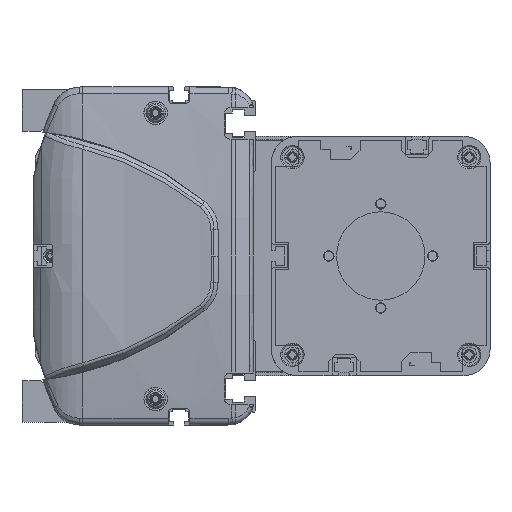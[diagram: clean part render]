
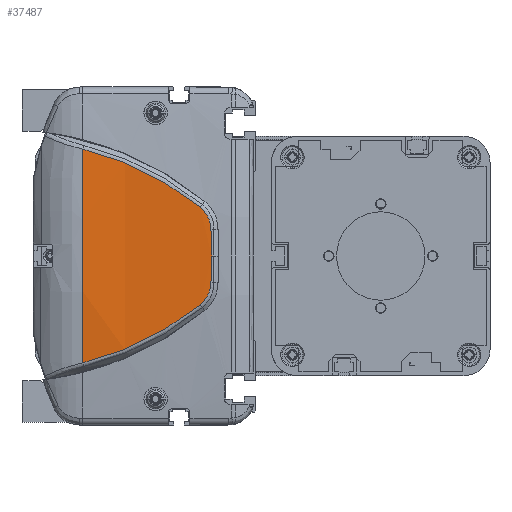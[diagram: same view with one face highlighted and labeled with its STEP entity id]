
A CAD part, left-side view. The second image highlights one B-rep face of the part: STEP entity #37487.
In plain terms, the highlighted cylindrical face has radius 500 mm (diameter 1000 mm), a partial arc.
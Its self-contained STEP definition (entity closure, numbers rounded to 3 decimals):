
#11691=CARTESIAN_POINT('',(-713.648,21.913,
-18.759));
#11692=CARTESIAN_POINT('',(-713.449,28.504,
-24.058));
#11693=CARTESIAN_POINT('',(-712.934,42.795,
-33.27));
#11694=CARTESIAN_POINT('',(-712.471,58.756,
-39.127));
#11695=CARTESIAN_POINT('',(-712.306,66.962,
-41.121));
#11697=CARTESIAN_POINT('',(-712.306,66.962,
41.121));
#11698=CARTESIAN_POINT('',(-712.471,58.756,
39.127));
#11699=CARTESIAN_POINT('',(-712.934,42.795,
33.27));
#11700=CARTESIAN_POINT('',(-713.449,28.504,
24.058));
#11701=CARTESIAN_POINT('',(-713.648,21.913,
18.759));
#11703=CARTESIAN_POINT('',(-713.648,21.913,
18.759));
#11704=CARTESIAN_POINT('',(-713.686,20.635,
17.736));
#11705=CARTESIAN_POINT('',(-713.779,18.536,
15.107));
#11706=CARTESIAN_POINT('',(-713.863,17.752,
11.827));
#11707=CARTESIAN_POINT('',(-713.896,17.724,
10.178));
#11709=CARTESIAN_POINT('',(-713.896,17.724,
10.178));
#11710=CARTESIAN_POINT('',(-713.92,17.707,
9.023));
#11711=CARTESIAN_POINT('',(-713.959,17.667,
6.728));
#11712=CARTESIAN_POINT('',(-713.993,17.579,
3.334));
#11713=CARTESIAN_POINT('',(-714.,17.498,
1.106));
#11714=CARTESIAN_POINT('',(-714.,17.449,
0.));
#11716=CARTESIAN_POINT('',(-714.,17.449,
0.));
#11717=CARTESIAN_POINT('',(-714.,17.498,
-1.106));
#11718=CARTESIAN_POINT('',(-713.993,17.579,
-3.334));
#11719=CARTESIAN_POINT('',(-713.959,17.667,
-6.728));
#11720=CARTESIAN_POINT('',(-713.92,17.707,
-9.025));
#11721=CARTESIAN_POINT('',(-713.896,17.724,
-10.18));
#11723=CARTESIAN_POINT('',(-713.896,17.724,
-10.18));
#11724=CARTESIAN_POINT('',(-713.863,17.752,
-11.828));
#11725=CARTESIAN_POINT('',(-713.779,18.537,
-15.109));
#11726=CARTESIAN_POINT('',(-713.686,20.635,
-17.736));
#11727=CARTESIAN_POINT('',(-713.648,21.913,
-18.759));
#11915=CARTESIAN_POINT('',(-214.,66.962,0.));
#11916=DIRECTION('',(0.,-1.,0.));
#11917=DIRECTION('',(-0.997,0.,0.082));
#11918=AXIS2_PLACEMENT_3D('',#11915,#11916,#11917);
#18317=VERTEX_POINT('',#11691);
#18318=VERTEX_POINT('',#11695);
#18319=CARTESIAN_POINT('',(-712.306,66.962,
41.121));
#18320=VERTEX_POINT('',#18319);
#18321=VERTEX_POINT('',#11701);
#18322=VERTEX_POINT('',#11707);
#18323=VERTEX_POINT('',#11714);
#18324=VERTEX_POINT('',#11721);
#37467=CARTESIAN_POINT('',(-214.,8.606,0.));
#37468=DIRECTION('',(0.,1.,0.));
#37469=DIRECTION('',(1.,0.,0.));
#37470=AXIS2_PLACEMENT_3D('',#37467,#37468,#37469);
#37471=CYLINDRICAL_SURFACE('',#37470,500.);
#37473=ORIENTED_EDGE('',*,*,#37472,.T.);
#37475=ORIENTED_EDGE('',*,*,#37474,.F.);
#37476=ORIENTED_EDGE('',*,*,#37458,.T.);
#37478=ORIENTED_EDGE('',*,*,#37477,.T.);
#37480=ORIENTED_EDGE('',*,*,#37479,.T.);
#37482=ORIENTED_EDGE('',*,*,#37481,.T.);
#37484=ORIENTED_EDGE('',*,*,#37483,.T.);
#37485=EDGE_LOOP('',(#37473,#37475,#37476,#37478,#37480,#37482,#37484));
#37486=FACE_OUTER_BOUND('',#37485,.F.);
#37487=ADVANCED_FACE('',(#37486),#37471,.T.);
#11696=B_SPLINE_CURVE_WITH_KNOTS('',3,(#11691,#11692,#11693,#11694,#11695),
.UNSPECIFIED.,.F.,.F.,(4,1,4),(0.,0.5,1.),.UNSPECIFIED.);
#11702=B_SPLINE_CURVE_WITH_KNOTS('',3,(#11697,#11698,#11699,#11700,#11701),
.UNSPECIFIED.,.F.,.F.,(4,1,4),(0.,0.5,1.),.UNSPECIFIED.);
#11708=B_SPLINE_CURVE_WITH_KNOTS('',3,(#11703,#11704,#11705,#11706,#11707),
.UNSPECIFIED.,.F.,.F.,(4,1,4),(0.,0.5,1.),.UNSPECIFIED.);
#11715=B_SPLINE_CURVE_WITH_KNOTS('',3,(#11709,#11710,#11711,#11712,#11713,
#11714),.UNSPECIFIED.,.F.,.F.,(4,1,1,4),(0.,0.333,
0.667,1.),.UNSPECIFIED.);
#11722=B_SPLINE_CURVE_WITH_KNOTS('',3,(#11716,#11717,#11718,#11719,#11720,
#11721),.UNSPECIFIED.,.F.,.F.,(4,1,1,4),(0.,0.333,
0.667,1.),.UNSPECIFIED.);
#11728=B_SPLINE_CURVE_WITH_KNOTS('',3,(#11723,#11724,#11725,#11726,#11727),
.UNSPECIFIED.,.F.,.F.,(4,1,4),(0.,0.5,1.),.UNSPECIFIED.);
#11919=CIRCLE('',#11918,500.);
#37458=EDGE_CURVE('',#18320,#18321,#11702,.T.);
#37472=EDGE_CURVE('',#18317,#18318,#11696,.T.);
#37474=EDGE_CURVE('',#18320,#18318,#11919,.T.);
#37477=EDGE_CURVE('',#18321,#18322,#11708,.T.);
#37479=EDGE_CURVE('',#18322,#18323,#11715,.T.);
#37481=EDGE_CURVE('',#18323,#18324,#11722,.T.);
#37483=EDGE_CURVE('',#18324,#18317,#11728,.T.);
